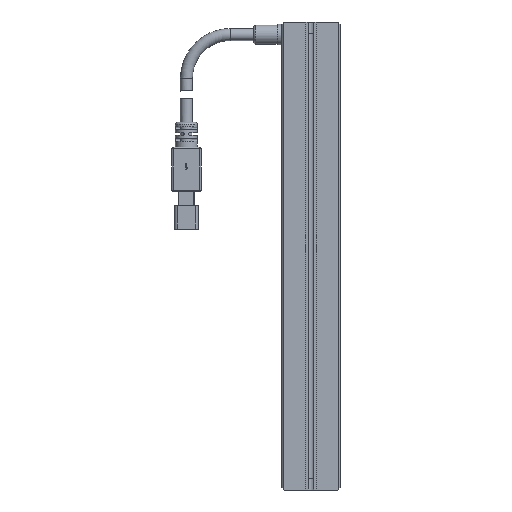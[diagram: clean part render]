
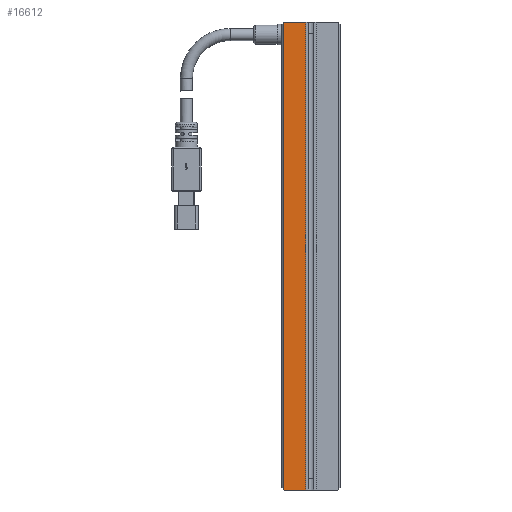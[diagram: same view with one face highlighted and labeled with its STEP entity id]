
A CAD part, front view. The second image highlights one B-rep face of the part: STEP entity #16612.
In plain terms, the highlighted planar face has unit normal (0, -1, 0).
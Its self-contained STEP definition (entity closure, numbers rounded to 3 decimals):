
#590 = CARTESIAN_POINT ( 'NONE',  ( -9., 0., -80. ) ) ;
#1618 = DIRECTION ( 'NONE',  ( -1., 0., 0. ) ) ;
#1825 = LINE ( 'NONE', #4694, #13166 ) ;
#2307 = EDGE_LOOP ( 'NONE', ( #8307, #9596, #7752, #10211, #6845, #9024 ) ) ;
#2494 = LINE ( 'NONE', #11836, #8945 ) ;
#2711 = DIRECTION ( 'NONE',  ( 1., 0., 0. ) ) ;
#2848 = CARTESIAN_POINT ( 'NONE',  ( -1.75, 0., -80. ) ) ;
#3412 = CARTESIAN_POINT ( 'NONE',  ( -84.5, 0., -4.5 ) ) ;
#3530 = EDGE_CURVE ( 'NONE', #6050, #5044, #17056, .T. ) ;
#3856 = CARTESIAN_POINT ( 'NONE',  ( -9.5, 0., 79.5 ) ) ;
#4494 = EDGE_CURVE ( 'NONE', #9383, #15596, #1825, .T. ) ;
#4694 = CARTESIAN_POINT ( 'NONE',  ( -1.75, 0., 80. ) ) ;
#4965 = VERTEX_POINT ( 'NONE', #8107 ) ;
#5044 = VERTEX_POINT ( 'NONE', #3856 ) ;
#5088 = DIRECTION ( 'NONE',  ( -1., 0., 0. ) ) ;
#5444 = EDGE_CURVE ( 'NONE', #15596, #10923, #17957, .T. ) ;
#5637 = DIRECTION ( 'NONE',  ( 0., -1., 0. ) ) ;
#5820 = DIRECTION ( 'NONE',  ( 0., 0., -1. ) ) ;
#6050 = VERTEX_POINT ( 'NONE', #10308 ) ;
#6845 = ORIENTED_EDGE ( 'NONE', *, *, #5444, .F. ) ;
#7464 = DIRECTION ( 'NONE',  ( 0., 0., -1. ) ) ;
#7752 = ORIENTED_EDGE ( 'NONE', *, *, #14454, .T. ) ;
#8107 = CARTESIAN_POINT ( 'NONE',  ( -9.5, 0., -79.5 ) ) ;
#8307 = ORIENTED_EDGE ( 'NONE', *, *, #9859, .T. ) ;
#8768 = LINE ( 'NONE', #3412, #11810 ) ;
#8945 = VECTOR ( 'NONE', #5820, 1000. ) ;
#8967 = CARTESIAN_POINT ( 'NONE',  ( -4.5, 0., 84.5 ) ) ;
#8986 = EDGE_CURVE ( 'NONE', #4965, #10923, #8768, .T. ) ;
#9024 = ORIENTED_EDGE ( 'NONE', *, *, #4494, .F. ) ;
#9383 = VERTEX_POINT ( 'NONE', #13400 ) ;
#9546 = DIRECTION ( 'NONE',  ( 0.707, 0., -0.707 ) ) ;
#9596 = ORIENTED_EDGE ( 'NONE', *, *, #3530, .T. ) ;
#9859 = EDGE_CURVE ( 'NONE', #9383, #6050, #18205, .T. ) ;
#10211 = ORIENTED_EDGE ( 'NONE', *, *, #8986, .T. ) ;
#10308 = CARTESIAN_POINT ( 'NONE',  ( -9., 0., 80. ) ) ;
#10843 = VECTOR ( 'NONE', #1618, 1000. ) ;
#10923 = VERTEX_POINT ( 'NONE', #590 ) ;
#10979 = FACE_OUTER_BOUND ( 'NONE', #2307, .T. ) ;
#11810 = VECTOR ( 'NONE', #9546, 1000. ) ;
#11836 = CARTESIAN_POINT ( 'NONE',  ( -9.5, 0., 80. ) ) ;
#11932 = AXIS2_PLACEMENT_3D ( 'NONE', #17395, #5637, #2711 ) ;
#13166 = VECTOR ( 'NONE', #7464, 1000. ) ;
#13400 = CARTESIAN_POINT ( 'NONE',  ( -1.75, 0., 80. ) ) ;
#13549 = DIRECTION ( 'NONE',  ( -0.707, 0., -0.707 ) ) ;
#13782 = CARTESIAN_POINT ( 'NONE',  ( 0., 0., -80. ) ) ;
#14031 = VECTOR ( 'NONE', #5088, 1000. ) ;
#14454 = EDGE_CURVE ( 'NONE', #5044, #4965, #2494, .T. ) ;
#14508 = VECTOR ( 'NONE', #13549, 1000. ) ;
#14993 = CARTESIAN_POINT ( 'NONE',  ( 0., 0., 80. ) ) ;
#15596 = VERTEX_POINT ( 'NONE', #2848 ) ;
#16612 = ADVANCED_FACE ( 'NONE', ( #10979 ), #17639, .T. ) ;
#17056 = LINE ( 'NONE', #8967, #14508 ) ;
#17395 = CARTESIAN_POINT ( 'NONE',  ( 0., 0., 80. ) ) ;
#17639 = PLANE ( 'NONE',  #11932 ) ;
#17957 = LINE ( 'NONE', #13782, #14031 ) ;
#18205 = LINE ( 'NONE', #14993, #10843 ) ;
